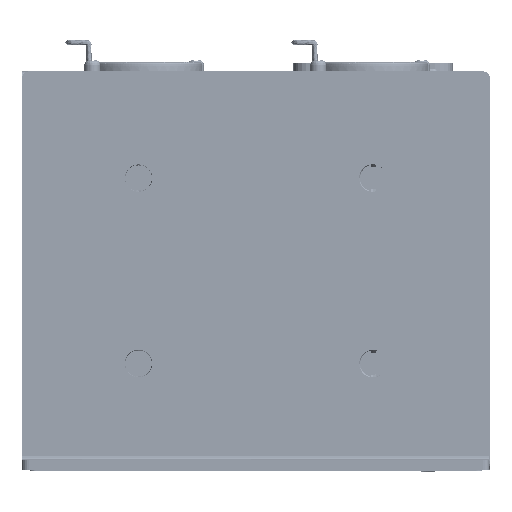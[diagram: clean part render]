
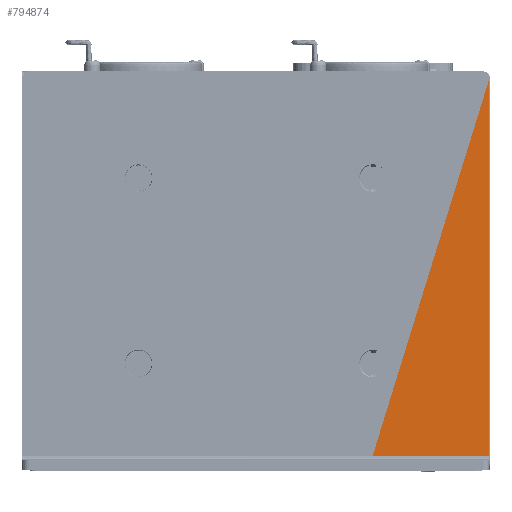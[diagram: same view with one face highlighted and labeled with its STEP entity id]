
A CAD part, left-side view. The second image highlights one B-rep face of the part: STEP entity #794874.
In plain terms, the highlighted planar face has unit normal (-1, 0, 0).
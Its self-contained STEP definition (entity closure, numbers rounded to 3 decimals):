
#768116 = VERTEX_POINT('',#768117);
#768117 = CARTESIAN_POINT('',(-232.129,20.117,
    -34.944));
#778567 = VERTEX_POINT('',#778568);
#778568 = CARTESIAN_POINT('',(-232.129,-1.9,
    -34.944));
#778581 = PLANE('',#778582);
#778582 = AXIS2_PLACEMENT_3D('',#778583,#778584,#778585);
#778583 = CARTESIAN_POINT('',(-231.622,-1.9,
    1.116));
#778584 = DIRECTION('',(0.,-1.,-0.));
#778585 = DIRECTION('',(-1.,-0.,0.));
#778621 = EDGE_CURVE('',#778622,#778567,#778624,.T.);
#778622 = VERTEX_POINT('',#778623);
#778623 = CARTESIAN_POINT('',(-232.129,-1.9,
    36.19));
#778624 = SURFACE_CURVE('',#778625,(#778629,#778636),.PCURVE_S1.);
#778625 = LINE('',#778626,#778627);
#778626 = CARTESIAN_POINT('',(-232.129,-1.9,
    36.19));
#778627 = VECTOR('',#778628,1.);
#778628 = DIRECTION('',(0.,0.,-1.));
#778629 = PCURVE('',#778581,#778630);
#778630 = DEFINITIONAL_REPRESENTATION('',(#778631),#778635);
#778631 = LINE('',#778632,#778633);
#778632 = CARTESIAN_POINT('',(0.507,-35.074));
#778633 = VECTOR('',#778634,1.);
#778634 = DIRECTION('',(0.,1.));
#778635 = ( GEOMETRIC_REPRESENTATION_CONTEXT(2) 
PARAMETRIC_REPRESENTATION_CONTEXT() REPRESENTATION_CONTEXT('2D SPACE',''
  ) );
#778636 = PCURVE('',#778637,#778642);
#778637 = PLANE('',#778638);
#778638 = AXIS2_PLACEMENT_3D('',#778639,#778640,#778641);
#778639 = CARTESIAN_POINT('',(-232.129,4.437,
    -4.049));
#778640 = DIRECTION('',(-1.,0.,0.));
#778641 = DIRECTION('',(-0.,-1.,0.));
#778642 = DEFINITIONAL_REPRESENTATION('',(#778643),#778646);
#778643 = B_SPLINE_CURVE_WITH_KNOTS('',1,(#778644,#778645),
  .UNSPECIFIED.,.F.,.F.,(2,2),(0.,71.134),
  .PIECEWISE_BEZIER_KNOTS.);
#778644 = CARTESIAN_POINT('',(6.336,40.239));
#778645 = CARTESIAN_POINT('',(6.336,-30.895));
#778646 = ( GEOMETRIC_REPRESENTATION_CONTEXT(2) 
PARAMETRIC_REPRESENTATION_CONTEXT() REPRESENTATION_CONTEXT('2D SPACE',''
  ) );
#794593 = PLANE('',#794594);
#794594 = AXIS2_PLACEMENT_3D('',#794595,#794596,#794597);
#794595 = CARTESIAN_POINT('',(-232.152,9.193,
    -35.027));
#794596 = DIRECTION('',(-0.966,0.,0.259));
#794597 = DIRECTION('',(-0.259,0.,-0.966));
#794629 = EDGE_CURVE('',#778567,#768116,#794630,.T.);
#794630 = SURFACE_CURVE('',#794631,(#794635,#794642),.PCURVE_S1.);
#794631 = LINE('',#794632,#794633);
#794632 = CARTESIAN_POINT('',(-232.129,-1.9,
    -34.944));
#794633 = VECTOR('',#794634,1.);
#794634 = DIRECTION('',(0.,1.,0.));
#794635 = PCURVE('',#794593,#794636);
#794636 = DEFINITIONAL_REPRESENTATION('',(#794637),#794641);
#794637 = LINE('',#794638,#794639);
#794638 = CARTESIAN_POINT('',(-0.086,11.093));
#794639 = VECTOR('',#794640,1.);
#794640 = DIRECTION('',(0.,-1.));
#794641 = ( GEOMETRIC_REPRESENTATION_CONTEXT(2) 
PARAMETRIC_REPRESENTATION_CONTEXT() REPRESENTATION_CONTEXT('2D SPACE',''
  ) );
#794642 = PCURVE('',#778637,#794643);
#794643 = DEFINITIONAL_REPRESENTATION('',(#794644),#794647);
#794644 = B_SPLINE_CURVE_WITH_KNOTS('',1,(#794645,#794646),
  .UNSPECIFIED.,.F.,.F.,(2,2),(0.,22.016),
  .PIECEWISE_BEZIER_KNOTS.);
#794645 = CARTESIAN_POINT('',(6.336,-30.895));
#794646 = CARTESIAN_POINT('',(-15.68,-30.895));
#794647 = ( GEOMETRIC_REPRESENTATION_CONTEXT(2) 
PARAMETRIC_REPRESENTATION_CONTEXT() REPRESENTATION_CONTEXT('2D SPACE',''
  ) );
#794874 = ADVANCED_FACE('',(#794875),#778637,.T.);
#794875 = FACE_BOUND('',#794876,.T.);
#794876 = EDGE_LOOP('',(#794877,#794878,#794903));
#794877 = ORIENTED_EDGE('',*,*,#778621,.F.);
#794878 = ORIENTED_EDGE('',*,*,#794879,.T.);
#794879 = EDGE_CURVE('',#778622,#768116,#794880,.T.);
#794880 = SURFACE_CURVE('',#794881,(#794885,#794892),.PCURVE_S1.);
#794881 = LINE('',#794882,#794883);
#794882 = CARTESIAN_POINT('',(-232.129,-1.9,
    36.19));
#794883 = VECTOR('',#794884,1.);
#794884 = DIRECTION('',(0.,0.296,-0.955));
#794885 = PCURVE('',#778637,#794886);
#794886 = DEFINITIONAL_REPRESENTATION('',(#794887),#794891);
#794887 = LINE('',#794888,#794889);
#794888 = CARTESIAN_POINT('',(6.336,40.239));
#794889 = VECTOR('',#794890,1.);
#794890 = DIRECTION('',(-0.296,-0.955));
#794891 = ( GEOMETRIC_REPRESENTATION_CONTEXT(2) 
PARAMETRIC_REPRESENTATION_CONTEXT() REPRESENTATION_CONTEXT('2D SPACE',''
  ) );
#794892 = PCURVE('',#794893,#794898);
#794893 = PLANE('',#794894);
#794894 = AXIS2_PLACEMENT_3D('',#794895,#794896,#794897);
#794895 = CARTESIAN_POINT('',(-232.129,9.742,
    0.784));
#794896 = DIRECTION('',(-1.,0.,0.));
#794897 = DIRECTION('',(-0.,-1.,0.));
#794898 = DEFINITIONAL_REPRESENTATION('',(#794899),#794902);
#794899 = B_SPLINE_CURVE_WITH_KNOTS('',1,(#794900,#794901),
  .UNSPECIFIED.,.F.,.F.,(2,2),(0.,74.463),
  .PIECEWISE_BEZIER_KNOTS.);
#794900 = CARTESIAN_POINT('',(11.641,35.406));
#794901 = CARTESIAN_POINT('',(-10.375,-35.728));
#794902 = ( GEOMETRIC_REPRESENTATION_CONTEXT(2) 
PARAMETRIC_REPRESENTATION_CONTEXT() REPRESENTATION_CONTEXT('2D SPACE',''
  ) );
#794903 = ORIENTED_EDGE('',*,*,#794629,.F.);
